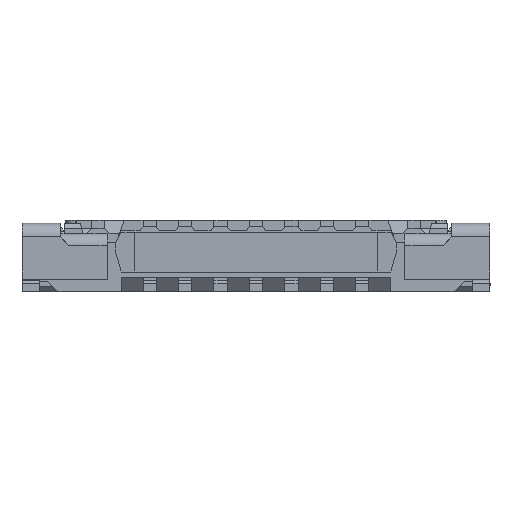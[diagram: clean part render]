
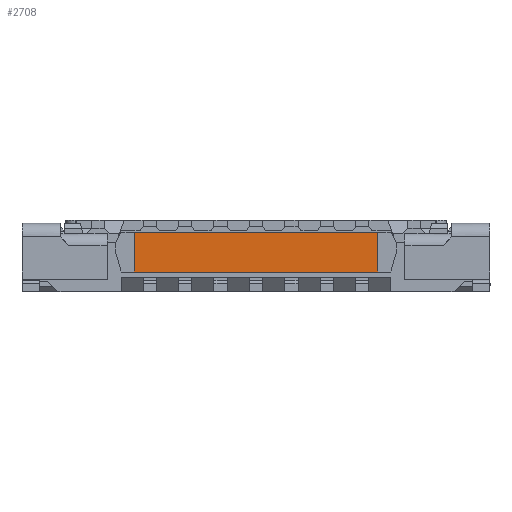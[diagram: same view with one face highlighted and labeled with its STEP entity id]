
A CAD part, top view. The second image highlights one B-rep face of the part: STEP entity #2708.
In plain terms, the highlighted planar face has unit normal (0, 0, 1).
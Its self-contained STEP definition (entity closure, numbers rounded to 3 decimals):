
#407 = EDGE_CURVE ( 'NONE', #6127, #1740, #5438, .T. ) ;
#443 = DIRECTION ( 'NONE',  ( 0., 0., -1. ) ) ;
#1091 = ORIENTED_EDGE ( 'NONE', *, *, #14426, .T. ) ;
#1441 = LINE ( 'NONE', #8795, #11999 ) ;
#1513 = EDGE_CURVE ( 'NONE', #12727, #9583, #12078, .T. ) ;
#1528 = DIRECTION ( 'NONE',  ( 0., -1., 0. ) ) ;
#1645 = VECTOR ( 'NONE', #10206, 1000. ) ;
#1740 = VERTEX_POINT ( 'NONE', #11226 ) ;
#2116 = FACE_OUTER_BOUND ( 'NONE', #2475, .T. ) ;
#2475 = EDGE_LOOP ( 'NONE', ( #6583, #8898, #6402, #1091 ) ) ;
#2708 = ADVANCED_FACE ( 'NONE', ( #2116 ), #6407, .F. ) ;
#2759 = CARTESIAN_POINT ( 'NONE',  ( 0.15, 0.19, 0.99 ) ) ;
#3946 = DIRECTION ( 'NONE',  ( -1., 0., 0. ) ) ;
#5188 = VECTOR ( 'NONE', #3946, 1000. ) ;
#5268 = AXIS2_PLACEMENT_3D ( 'NONE', #17773, #443, #14973 ) ;
#5438 = LINE ( 'NONE', #13919, #5188 ) ;
#6127 = VERTEX_POINT ( 'NONE', #8653 ) ;
#6402 = ORIENTED_EDGE ( 'NONE', *, *, #407, .T. ) ;
#6407 = PLANE ( 'NONE',  #5268 ) ;
#6583 = ORIENTED_EDGE ( 'NONE', *, *, #1513, .F. ) ;
#8653 = CARTESIAN_POINT ( 'NONE',  ( 0.15, 0.58, 0.99 ) ) ;
#8795 = CARTESIAN_POINT ( 'NONE',  ( 0.15, 0.19, 0.99 ) ) ;
#8898 = ORIENTED_EDGE ( 'NONE', *, *, #12118, .F. ) ;
#9583 = VERTEX_POINT ( 'NONE', #11285 ) ;
#10206 = DIRECTION ( 'NONE',  ( 0., -1., 0. ) ) ;
#11226 = CARTESIAN_POINT ( 'NONE',  ( -2.25, 0.58, 0.99 ) ) ;
#11285 = CARTESIAN_POINT ( 'NONE',  ( -2.25, 0.19, 0.99 ) ) ;
#11788 = LINE ( 'NONE', #16076, #1645 ) ;
#11999 = VECTOR ( 'NONE', #1528, 1000. ) ;
#12078 = LINE ( 'NONE', #17769, #15625 ) ;
#12118 = EDGE_CURVE ( 'NONE', #6127, #12727, #1441, .T. ) ;
#12727 = VERTEX_POINT ( 'NONE', #2759 ) ;
#13919 = CARTESIAN_POINT ( 'NONE',  ( -6.475, 0.58, 0.99 ) ) ;
#14426 = EDGE_CURVE ( 'NONE', #1740, #9583, #11788, .T. ) ;
#14973 = DIRECTION ( 'NONE',  ( -1., 0., 0. ) ) ;
#15625 = VECTOR ( 'NONE', #16369, 1000. ) ;
#16076 = CARTESIAN_POINT ( 'NONE',  ( -2.25, 0.19, 0.99 ) ) ;
#16369 = DIRECTION ( 'NONE',  ( -1., 0., 0. ) ) ;
#17769 = CARTESIAN_POINT ( 'NONE',  ( -6.825, 0.19, 0.99 ) ) ;
#17773 = CARTESIAN_POINT ( 'NONE',  ( -6.475, 0.17, 0.99 ) ) ;
